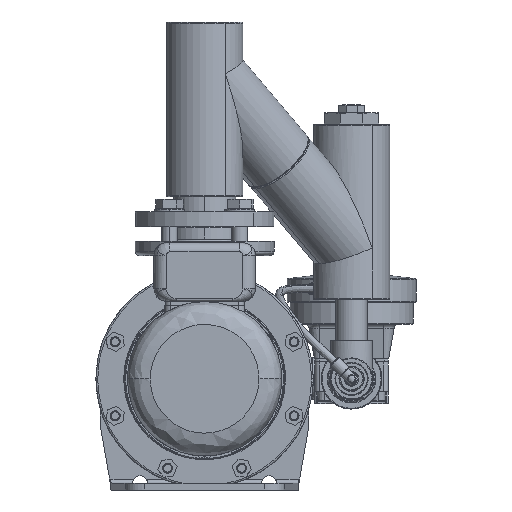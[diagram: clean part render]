
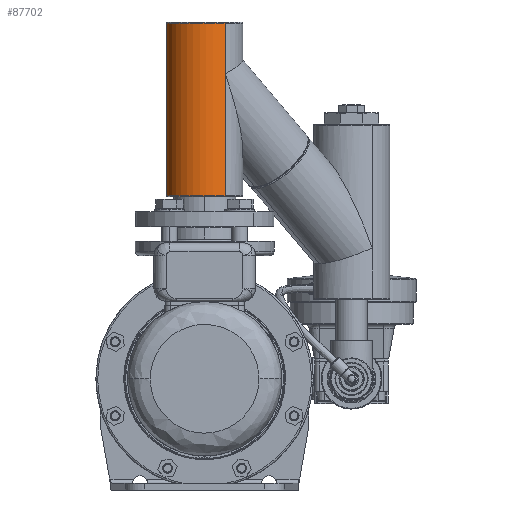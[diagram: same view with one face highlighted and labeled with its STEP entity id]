
A CAD part, front view. The second image highlights one B-rep face of the part: STEP entity #87702.
In plain terms, the highlighted cylindrical face has radius 38.5 mm (diameter 77 mm), a partial arc.
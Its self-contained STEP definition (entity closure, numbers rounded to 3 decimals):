
#71355 = CIRCLE ( 'NONE', #71447, 38.5 ) ;
#71439 = CARTESIAN_POINT ( 'NONE',  ( -132.412, -247.966, 209.412 ) ) ;
#71443 = DIRECTION ( 'NONE',  ( 0.536, -0.844, 0. ) ) ;
#71445 = DIRECTION ( 'NONE',  ( 0., 0., -1. ) ) ;
#71446 = CARTESIAN_POINT ( 'NONE',  ( -153.063, -215.473, 383.312 ) ) ;
#71447 = AXIS2_PLACEMENT_3D ( 'NONE', #71446, #71445, #71443 ) ;
#71487 = CARTESIAN_POINT ( 'NONE',  ( -173.715, -182.98, 383.312 ) ) ;
#71489 = CARTESIAN_POINT ( 'NONE',  ( -132.412, -247.966, 383.312 ) ) ;
#71548 = CIRCLE ( 'NONE', #71685, 38.5 ) ;
#71565 = CARTESIAN_POINT ( 'NONE',  ( -173.715, -182.98, 209.412 ) ) ;
#71680 = DIRECTION ( 'NONE',  ( 0.536, -0.844, 0. ) ) ;
#71682 = DIRECTION ( 'NONE',  ( 0., 0., 1. ) ) ;
#71683 = CARTESIAN_POINT ( 'NONE',  ( -153.063, -215.473, 209.412 ) ) ;
#71685 = AXIS2_PLACEMENT_3D ( 'NONE', #71683, #71682, #71680 ) ;
#73994 = DIRECTION ( 'NONE',  ( 0., 0., 1. ) ) ;
#73995 = CARTESIAN_POINT ( 'NONE',  ( -173.715, -182.98, 296.362 ) ) ;
#74001 = LINE ( 'NONE', #73995, #74040 ) ;
#74040 = VECTOR ( 'NONE', #73994, 1000. ) ;
#77970 = EDGE_CURVE ( 'NONE', #77995, #77996, #71355, .T. ) ;
#77990 = VERTEX_POINT ( 'NONE', #71439 ) ;
#77995 = VERTEX_POINT ( 'NONE', #71489 ) ;
#77996 = VERTEX_POINT ( 'NONE', #71487 ) ;
#78017 = VERTEX_POINT ( 'NONE', #71565 ) ;
#78025 = EDGE_CURVE ( 'NONE', #78017, #77990, #71548, .T. ) ;
#78636 = VECTOR ( 'NONE', #78660, 1000. ) ;
#78637 = CARTESIAN_POINT ( 'NONE',  ( -132.412, -247.966, 296.362 ) ) ;
#78660 = DIRECTION ( 'NONE',  ( 0., 0., 1. ) ) ;
#78662 = LINE ( 'NONE', #78637, #78636 ) ;
#78673 = CARTESIAN_POINT ( 'NONE',  ( -132.412, -247.966, 296.362 ) ) ;
#78674 = LINE ( 'NONE', #78673, #78708 ) ;
#78685 = CARTESIAN_POINT ( 'NONE',  ( -132.412, -247.966, 332.362 ) ) ;
#78690 = LINE ( 'NONE', #78743, #78741 ) ;
#78706 = DIRECTION ( 'NONE',  ( 0., 0., 1. ) ) ;
#78707 = DIRECTION ( 'NONE',  ( 0., 0., 1. ) ) ;
#78708 = VECTOR ( 'NONE', #78707, 1000. ) ;
#78741 = VECTOR ( 'NONE', #78706, 1000. ) ;
#78743 = CARTESIAN_POINT ( 'NONE',  ( -173.715, -182.98, 296.362 ) ) ;
#79524 = AXIS2_PLACEMENT_3D ( 'NONE', #79529, #79528, #79602 ) ;
#79525 = CYLINDRICAL_SURFACE ( 'NONE', #79524, 38.5 ) ;
#79528 = DIRECTION ( 'NONE',  ( 0., 0., 1. ) ) ;
#79529 = CARTESIAN_POINT ( 'NONE',  ( -153.063, -215.473, 296.362 ) ) ;
#79530 = FACE_OUTER_BOUND ( 'NONE', #87720, .T. ) ;
#79602 = DIRECTION ( 'NONE',  ( 0.536, -0.844, 0. ) ) ;
#84105 = EDGE_CURVE ( 'NONE', #78017, #89597, #74001, .T. ) ;
#85143 = CARTESIAN_POINT ( 'NONE',  ( -173.715, -182.98, 332.362 ) ) ;
#86833 = ORIENTED_EDGE ( 'NONE', *, *, #78025, .T. ) ;
#87411 = EDGE_CURVE ( 'NONE', #87421, #77995, #78662, .T. ) ;
#87421 = VERTEX_POINT ( 'NONE', #78685 ) ;
#87426 = EDGE_CURVE ( 'NONE', #77990, #87421, #78674, .T. ) ;
#87437 = EDGE_CURVE ( 'NONE', #89597, #77996, #78690, .T. ) ;
#87702 = ADVANCED_FACE ( 'NONE', ( #79530 ), #79525, .T. ) ;
#87703 = ORIENTED_EDGE ( 'NONE', *, *, #87426, .T. ) ;
#87704 = ORIENTED_EDGE ( 'NONE', *, *, #84105, .F. ) ;
#87709 = ORIENTED_EDGE ( 'NONE', *, *, #87411, .T. ) ;
#87720 = EDGE_LOOP ( 'NONE', ( #87704, #86833, #87703, #87709, #87727, #87769 ) ) ;
#87727 = ORIENTED_EDGE ( 'NONE', *, *, #77970, .T. ) ;
#87769 = ORIENTED_EDGE ( 'NONE', *, *, #87437, .F. ) ;
#89597 = VERTEX_POINT ( 'NONE', #85143 ) ;
